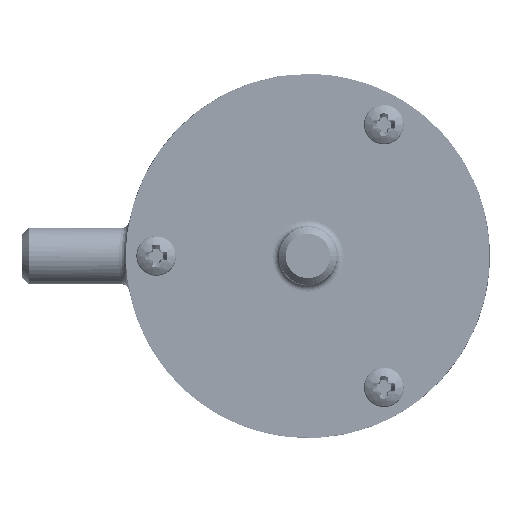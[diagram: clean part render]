
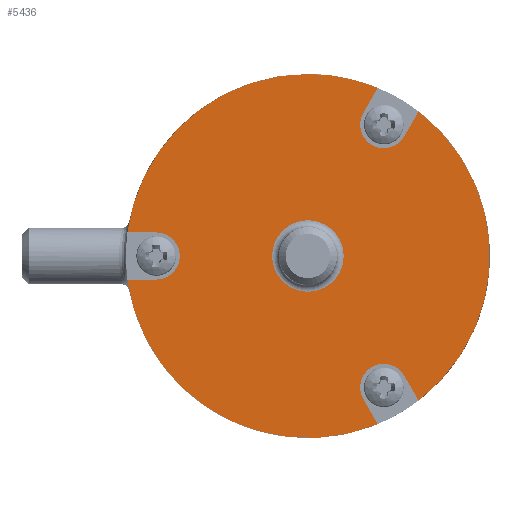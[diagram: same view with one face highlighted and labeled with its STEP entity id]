
A CAD part, left-side view. The second image highlights one B-rep face of the part: STEP entity #5436.
In plain terms, the highlighted planar face has unit normal (-1, 0, 0).
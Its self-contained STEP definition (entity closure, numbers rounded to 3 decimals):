
#487=FACE_BOUND('',#939,.T.);
#508=PLANE('',#5867);
#602=FACE_OUTER_BOUND('',#938,.T.);
#938=EDGE_LOOP('',(#3555,#3556,#3557,#3558,#3559,#3560,#3561,#3562,#3563,
#3564,#3565,#3566,#3567));
#939=EDGE_LOOP('',(#3568));
#1286=LINE('',#7767,#1608);
#1287=LINE('',#7773,#1609);
#1288=LINE('',#7777,#1610);
#1289=LINE('',#7781,#1611);
#1290=LINE('',#7785,#1612);
#1291=LINE('',#7789,#1613);
#1608=VECTOR('',#6422,10.);
#1609=VECTOR('',#6427,10.);
#1610=VECTOR('',#6430,10.);
#1611=VECTOR('',#6433,10.);
#1612=VECTOR('',#6436,10.);
#1613=VECTOR('',#6439,10.);
#1935=CIRCLE('',#5863,2.65);
#1938=CIRCLE('',#5868,13.5);
#1939=CIRCLE('',#5869,13.5);
#1940=CIRCLE('',#5870,1.75);
#1941=CIRCLE('',#5871,13.5);
#1942=CIRCLE('',#5872,1.75);
#1943=CIRCLE('',#5873,13.5);
#1944=CIRCLE('',#5874,1.75);
#2114=VERTEX_POINT('',#7756);
#2116=VERTEX_POINT('',#7765);
#2117=VERTEX_POINT('',#7766);
#2118=VERTEX_POINT('',#7768);
#2119=VERTEX_POINT('',#7770);
#2120=VERTEX_POINT('',#7772);
#2121=VERTEX_POINT('',#7774);
#2122=VERTEX_POINT('',#7776);
#2123=VERTEX_POINT('',#7778);
#2124=VERTEX_POINT('',#7780);
#2125=VERTEX_POINT('',#7782);
#2126=VERTEX_POINT('',#7784);
#2127=VERTEX_POINT('',#7786);
#2128=VERTEX_POINT('',#7788);
#2683=EDGE_CURVE('',#2114,#2114,#1935,.T.);
#2687=EDGE_CURVE('',#2116,#2117,#1286,.T.);
#2688=EDGE_CURVE('',#2118,#2117,#1938,.T.);
#2689=EDGE_CURVE('',#2119,#2118,#1939,.T.);
#2690=EDGE_CURVE('',#2119,#2120,#1287,.T.);
#2691=EDGE_CURVE('',#2120,#2121,#1940,.T.);
#2692=EDGE_CURVE('',#2121,#2122,#1288,.T.);
#2693=EDGE_CURVE('',#2123,#2122,#1941,.T.);
#2694=EDGE_CURVE('',#2123,#2124,#1289,.T.);
#2695=EDGE_CURVE('',#2124,#2125,#1942,.T.);
#2696=EDGE_CURVE('',#2125,#2126,#1290,.T.);
#2697=EDGE_CURVE('',#2127,#2126,#1943,.T.);
#2698=EDGE_CURVE('',#2127,#2128,#1291,.T.);
#2699=EDGE_CURVE('',#2128,#2116,#1944,.T.);
#3555=ORIENTED_EDGE('',*,*,#2687,.T.);
#3556=ORIENTED_EDGE('',*,*,#2688,.F.);
#3557=ORIENTED_EDGE('',*,*,#2689,.F.);
#3558=ORIENTED_EDGE('',*,*,#2690,.T.);
#3559=ORIENTED_EDGE('',*,*,#2691,.T.);
#3560=ORIENTED_EDGE('',*,*,#2692,.T.);
#3561=ORIENTED_EDGE('',*,*,#2693,.F.);
#3562=ORIENTED_EDGE('',*,*,#2694,.T.);
#3563=ORIENTED_EDGE('',*,*,#2695,.T.);
#3564=ORIENTED_EDGE('',*,*,#2696,.T.);
#3565=ORIENTED_EDGE('',*,*,#2697,.F.);
#3566=ORIENTED_EDGE('',*,*,#2698,.T.);
#3567=ORIENTED_EDGE('',*,*,#2699,.T.);
#3568=ORIENTED_EDGE('',*,*,#2683,.F.);
#5436=ADVANCED_FACE('',(#602,#487),#508,.F.);
#5863=AXIS2_PLACEMENT_3D('',#7758,#6411,#6412);
#5867=AXIS2_PLACEMENT_3D('',#7764,#6420,#6421);
#5868=AXIS2_PLACEMENT_3D('',#7769,#6423,#6424);
#5869=AXIS2_PLACEMENT_3D('',#7771,#6425,#6426);
#5870=AXIS2_PLACEMENT_3D('',#7775,#6428,#6429);
#5871=AXIS2_PLACEMENT_3D('',#7779,#6431,#6432);
#5872=AXIS2_PLACEMENT_3D('',#7783,#6434,#6435);
#5873=AXIS2_PLACEMENT_3D('',#7787,#6437,#6438);
#5874=AXIS2_PLACEMENT_3D('',#7790,#6440,#6441);
#6411=DIRECTION('center_axis',(-1.,0.,0.));
#6412=DIRECTION('ref_axis',(0.,0.,1.));
#6420=DIRECTION('center_axis',(1.,0.,0.));
#6421=DIRECTION('ref_axis',(0.,0.,-1.));
#6422=DIRECTION('',(0.,-0.5,0.866));
#6423=DIRECTION('center_axis',(1.,0.,0.));
#6424=DIRECTION('ref_axis',(0.,0.,-1.));
#6425=DIRECTION('center_axis',(1.,0.,0.));
#6426=DIRECTION('ref_axis',(0.,0.,-1.));
#6427=DIRECTION('',(0.,-1.,0.));
#6428=DIRECTION('center_axis',(1.,0.,0.));
#6429=DIRECTION('ref_axis',(0.,0.,-1.));
#6430=DIRECTION('',(0.,1.,0.));
#6431=DIRECTION('center_axis',(1.,0.,0.));
#6432=DIRECTION('ref_axis',(0.,0.,-1.));
#6433=DIRECTION('',(0.,0.5,0.866));
#6434=DIRECTION('center_axis',(1.,0.,0.));
#6435=DIRECTION('ref_axis',(0.,-0.866,0.5));
#6436=DIRECTION('',(0.,-0.5,-0.866));
#6437=DIRECTION('center_axis',(1.,0.,0.));
#6438=DIRECTION('ref_axis',(0.,0.,-1.));
#6439=DIRECTION('',(0.,0.5,-0.866));
#6440=DIRECTION('center_axis',(1.,0.,0.));
#6441=DIRECTION('ref_axis',(0.,0.866,0.5));
#7756=CARTESIAN_POINT('',(0.,0.,2.65));
#7758=CARTESIAN_POINT('Origin',(0.,0.,0.));
#7764=CARTESIAN_POINT('Origin',(0.,0.,0.));
#7765=CARTESIAN_POINT('',(0.,-4.109,10.618));
#7766=CARTESIAN_POINT('',(0.,-5.178,12.468));
#7767=CARTESIAN_POINT('',(0.,-1.297,5.746));
#7768=CARTESIAN_POINT('',(0.,0.,13.5));
#7769=CARTESIAN_POINT('Origin',(0.,0.,0.));
#7770=CARTESIAN_POINT('',(0.,13.386,1.75));
#7771=CARTESIAN_POINT('Origin',(0.,0.,0.));
#7772=CARTESIAN_POINT('',(0.,11.25,1.75));
#7773=CARTESIAN_POINT('',(0.,6.693,1.75));
#7774=CARTESIAN_POINT('',(0.,11.25,-1.75));
#7775=CARTESIAN_POINT('Origin',(0.,11.25,0.));
#7776=CARTESIAN_POINT('',(0.,13.386,-1.75));
#7777=CARTESIAN_POINT('',(0.,5.625,-1.75));
#7778=CARTESIAN_POINT('',(0.,-5.178,-12.468));
#7779=CARTESIAN_POINT('Origin',(0.,0.,0.));
#7780=CARTESIAN_POINT('',(0.,-4.109,-10.618));
#7781=CARTESIAN_POINT('',(0.,-1.831,-6.671));
#7782=CARTESIAN_POINT('',(0.,-7.141,-8.868));
#7783=CARTESIAN_POINT('Origin',(0.,-5.625,-9.743));
#7784=CARTESIAN_POINT('',(0.,-8.209,-10.718));
#7785=CARTESIAN_POINT('',(0.,-4.328,-3.996));
#7786=CARTESIAN_POINT('',(0.,-8.209,10.718));
#7787=CARTESIAN_POINT('Origin',(0.,0.,0.));
#7788=CARTESIAN_POINT('',(0.,-7.141,8.868));
#7789=CARTESIAN_POINT('',(0.,-4.862,4.921));
#7790=CARTESIAN_POINT('Origin',(0.,-5.625,9.743));
